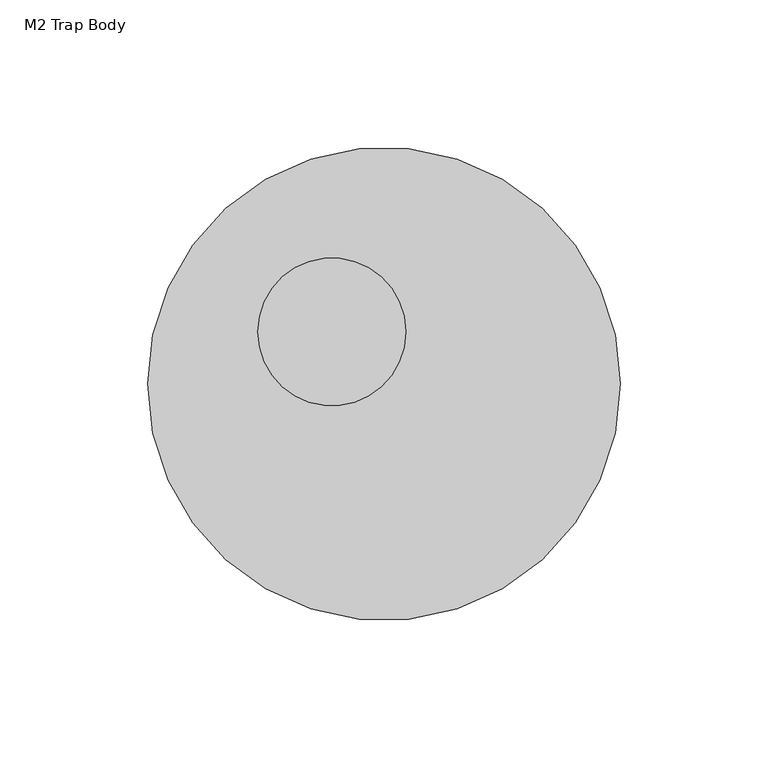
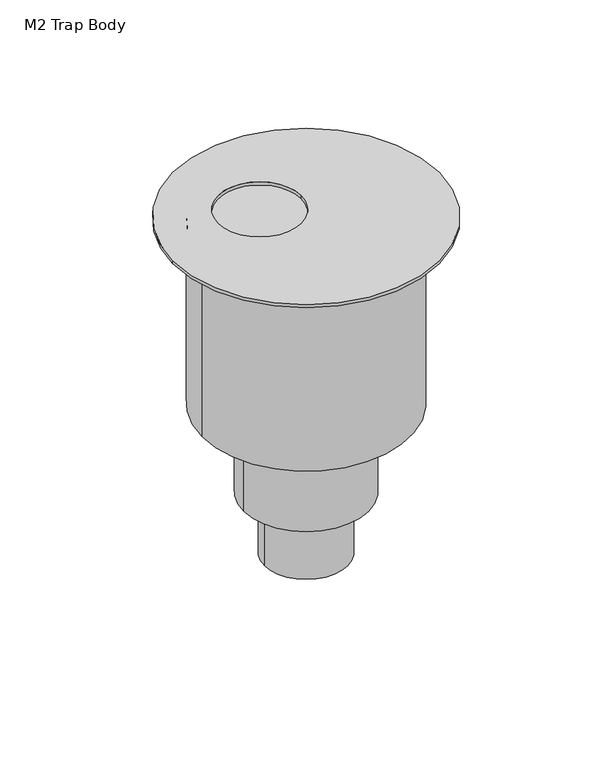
"""IFC4 building model written with IfcOpenShell, lengths in millimetres: sanitary terminal geometry, Z_DO_NOT_USE_NLRS_PF_52_UN_M2 Vertical Outlet_Easydrain : M2 Trap Body."""

from ifc_helpers import new_model, si_unit, point, frame, frame_2d, origin, origin_2d, place, context, project, spatial, circle_curve, trimmed, segment, composite_curve, outline, extrude, source, transform, mapped, element, save


def m2_trap_body_e95e259b(model_context):
    return source(origin(), model_context, "Body", "SweptSolid", [
        extrude(outline(composite_curve([segment(trimmed(circle_curve(frame_2d((17.6776695, -17.6776695)), 80.0), [point((-62.3223305, -17.6776695))], [point((97.6776695, -17.6776695))], False, "CARTESIAN"), True, "CONTINUOUS"), segment(trimmed(circle_curve(frame_2d((17.6776695, -17.6776695)), 80.0), [point((97.6776695, -17.6776695))], [point((-62.3223305, -17.6776695))], False, "CARTESIAN"), True, "CONTINUOUS")], self_intersect=False), holes=[composite_curve([segment(trimmed(circle_curve(origin_2d(), 25.0), [point((-25.0, 0.0))], [point((25.0, 0.0))], True, "CARTESIAN"), True, "CONTINUOUS"), segment(trimmed(circle_curve(origin_2d(), 25.0), [point((25.0, 0.0))], [point((-25.0, 0.0))], True, "CARTESIAN"), True, "CONTINUOUS")], self_intersect=False)]), frame((0.0, 0.0, -2.0), z_axis=(0.0, 0.0, 1.0), x_axis=(1.0, 0.0, 0.0)), (0.0, 0.0, 1.0), 2.0),
        extrude(outline(composite_curve([segment(trimmed(circle_curve(frame_2d((17.6776695, -17.6776695)), 25.0), [point((-7.3223305, -17.6776695))], [point((42.6776695, -17.6776695))], False, "CARTESIAN"), True, "CONTINUOUS"), segment(trimmed(circle_curve(frame_2d((17.6776695, -17.6776695)), 25.0), [point((42.6776695, -17.6776695))], [point((-7.3223305, -17.6776695))], False, "CARTESIAN"), True, "CONTINUOUS")], self_intersect=False)), frame((0.0, 0.0, -213.0), z_axis=(0.0, 0.0, 1.0), x_axis=(1.0, 0.0, 0.0)), (0.0, 0.0, 1.0), 39.0),
        extrude(outline(composite_curve([segment(trimmed(circle_curve(frame_2d((17.6776695, -17.6776695)), 37.5), [point((-19.8223305, -17.6776695))], [point((55.1776695, -17.6776695))], False, "CARTESIAN"), True, "CONTINUOUS"), segment(trimmed(circle_curve(frame_2d((17.6776695, -17.6776695)), 37.5), [point((55.1776695, -17.6776695))], [point((-19.8223305, -17.6776695))], False, "CARTESIAN"), True, "CONTINUOUS")], self_intersect=False)), frame((0.0, 0.0, -174.0), z_axis=(0.0, 0.0, 1.0), x_axis=(1.0, 0.0, 0.0)), (0.0, 0.0, 1.0), 56.0),
        extrude(outline(composite_curve([segment(trimmed(circle_curve(frame_2d((17.6776695, -17.6776695)), 62.5), [point((-44.8223305, -17.6776695))], [point((80.1776695, -17.6776695))], False, "CARTESIAN"), True, "CONTINUOUS"), segment(trimmed(circle_curve(frame_2d((17.6776695, -17.6776695)), 62.5), [point((80.1776695, -17.6776695))], [point((-44.8223305, -17.6776695))], False, "CARTESIAN"), True, "CONTINUOUS")], self_intersect=False)), frame((0.0, 0.0, -118.0), z_axis=(0.0, 0.0, 1.0), x_axis=(1.0, 0.0, 0.0)), (0.0, 0.0, 1.0), 116.0),
    ])


if __name__ == "__main__":
    model = new_model("IFC4")
    model_context = context("Model", 3, world=origin())
    ifc_project = project(units=[si_unit("LENGTHUNIT", "METRE", prefix="MILLI")], contexts=[model_context])
    site = spatial("IfcSite", under=ifc_project)
    building = spatial("IfcBuilding", under=site)
    placement = place(None, origin())
    m2_trap_body_shape = m2_trap_body_e95e259b(model_context)
    element("IfcSanitaryTerminal", 1, ObjectType="Z_DO_NOT_USE_NLRS_PF_52_UN_M2 Vertical Outlet_Easydrain : M2 Trap Body", at=placement, inside=building, context=model_context, shape_type="MappedRepresentation", body=[
        mapped(m2_trap_body_shape, transform((0.0, 0.0, 0.0), x_axis=(1.0, 0.0, 0.0), y_axis=(0.0, 1.0, 0.0), z_axis=(0.0, 0.0, 1.0))),
    ])
    save(model, "model.ifc")
